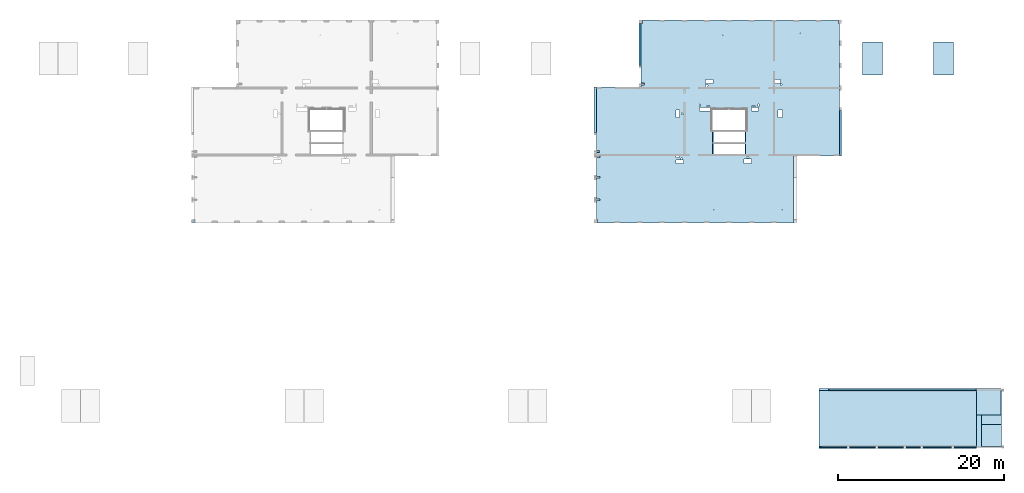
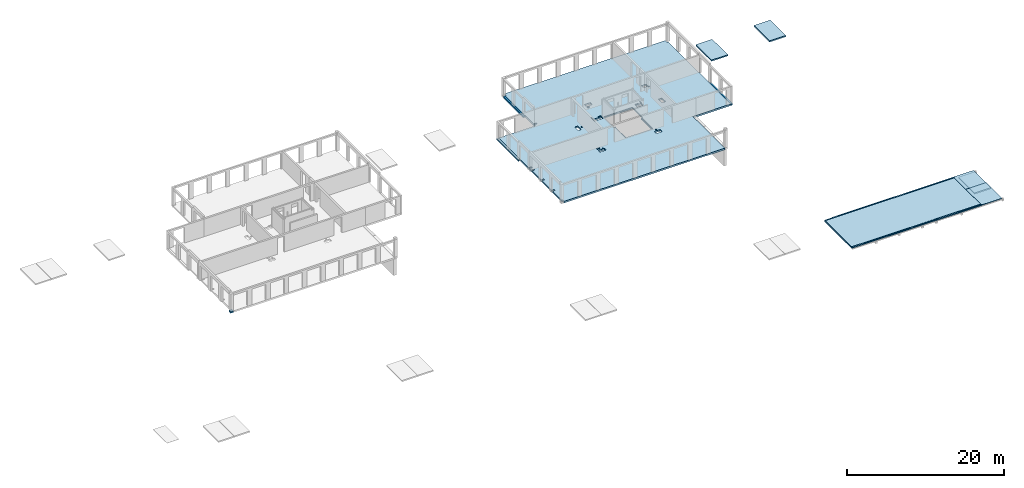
# One storey, part 5 of 14: 15 slabs, 34 openings.
"""IFC2X3 building model written with IfcOpenShell, lengths in millimetres."""

import ifcopenshell
import ifcopenshell.guid

model = None  # the IFC model being written
_history = None  # IfcOwnerHistory: only IFC2X3 demands one
_inside = {}  # id of a spatial element -> (the spatial element, [elements in it])
_under = {}  # id of a project, library or spatial element -> (it, [spatial elements below it])
_declared = {}  # id of a project -> (the project, [libraries it declares])
_typed = {}  # id of a type object -> (the type object, [elements of that type])
_made_of = {}  # id of a material, layer set ... -> (it, [elements and type objects made of it])


def new_model(schema):
    """Start an empty IFC model of exactly this schema.

    Asked for "IFC4X3", IfcOpenShell would pick the latest addendum, in which some entities
    have other attributes; the version numbers below select the first issue.
    IFC2X3 requires an IfcOwnerHistory on every rooted entity: one is made here for all.
    """
    global model, _history
    if schema == "IFC4X3":
        model = ifcopenshell.file(schema_version=(4, 3, 0, 0))
    else:
        model = ifcopenshell.file(schema=schema)
    _inside.clear()
    _under.clear()
    _declared.clear()
    _typed.clear()
    _made_of.clear()
    _history = None
    if model.schema == "IFC2X3":
        org = make("IfcOrganization", Name="unknown")
        user = make(
            "IfcPersonAndOrganization",
            ThePerson=make("IfcPerson", FamilyName="unknown"),
            TheOrganization=org,
        )
        app = make(
            "IfcApplication",
            ApplicationDeveloper=org,
            Version="unknown",
            ApplicationFullName="unknown",
            ApplicationIdentifier="unknown",
        )
        _history = make(
            "IfcOwnerHistory",
            OwningUser=user,
            OwningApplication=app,
            ChangeAction="ADDED",
            CreationDate=0,
        )
    return model


def make(cls, **values):
    """One entity of the class cls with the attributes given. An attribute that is None is left unset."""
    return model.create_entity(
        cls, **{name: value for name, value in values.items() if value is not None}
    )


def entity(cls, *values):
    """Any entity or typed value of the class cls, its attributes in the order of the schema. None: left unset."""
    e = model.create_entity(cls)
    for i, value in enumerate(values):
        if value is not None:
            e[i] = value
    return e


def rooted(cls, **values):
    """An entity with a GlobalId (a new one), such as an element, a storey or a relation."""
    return make(cls, GlobalId=ifcopenshell.guid.new(), OwnerHistory=_history, **values)


def si_unit(unit_type, name, prefix=None):
    """IfcSIUnit, for example si_unit("LENGTHUNIT", "METRE", prefix="MILLI")."""
    return make("IfcSIUnit", UnitType=unit_type, Prefix=prefix, Name=name)


def converted_unit(unit_type, name, factor, base, dimensions=None, offset=None):
    """IfcConversionBasedUnit, such as the inch: factor (a typed value) times the base unit."""
    return make(
        "IfcConversionBasedUnit"
        if offset is None
        else "IfcConversionBasedUnitWithOffset",
        ConversionOffset=offset,
        Dimensions=None
        if dimensions is None
        else entity("IfcDimensionalExponents", *dimensions),
        UnitType=unit_type,
        Name=name,
        ConversionFactor=make(
            "IfcMeasureWithUnit", ValueComponent=factor, UnitComponent=base
        ),
    )


def derived_unit(unit_type, elements):
    """IfcDerivedUnit: a product of units, each with its exponent."""
    return make(
        "IfcDerivedUnit",
        Elements=[
            make("IfcDerivedUnitElement", Unit=unit, Exponent=power)
            for unit, power in elements
        ],
        UnitType=unit_type,
    )


def assignment(units):
    """IfcUnitAssignment: the units of a project."""
    return None if units is None else make("IfcUnitAssignment", Units=units)


def point(xyz):
    """IfcCartesianPoint."""
    return None if xyz is None else make("IfcCartesianPoint", Coordinates=xyz)


def direction(xyz):
    """IfcDirection."""
    return None if xyz is None else make("IfcDirection", DirectionRatios=xyz)


def frame(location, z_axis=None, x_axis=None):
    """IfcAxis2Placement3D, a coordinate frame: its origin and axes. An axis left out is left unset."""
    return make(
        "IfcAxis2Placement3D",
        Location=point(location),
        Axis=direction(z_axis),
        RefDirection=direction(x_axis),
    )


def frame_2d(location, x_axis=None):
    """IfcAxis2Placement2D, a coordinate frame in the plane: its origin and x axis."""
    return make(
        "IfcAxis2Placement2D", Location=point(location), RefDirection=direction(x_axis)
    )


def origin():
    """The frame at (0, 0, 0) with its axes left unset."""
    return frame((0.0, 0.0, 0.0))


def origin_2d_with_axis():
    """The frame at (0, 0) in the plane with the x axis (1, 0) written out."""
    return frame_2d((0.0, 0.0), x_axis=(1.0, 0.0))


def place(relative_to, where):
    """IfcLocalPlacement: puts the frame where relative to a parent placement (None: the world)."""
    return make(
        "IfcLocalPlacement", PlacementRelTo=relative_to, RelativePlacement=where
    )


def context(
    kind, dimensions, precision=None, world=None, true_north=None, identifier=None
):
    """IfcGeometricRepresentationContext, for example the 3D "Model" context."""
    return make(
        "IfcGeometricRepresentationContext",
        ContextIdentifier=identifier,
        ContextType=kind,
        CoordinateSpaceDimension=dimensions,
        Precision=precision,
        WorldCoordinateSystem=world,
        TrueNorth=true_north,
    )


def subcontext(parent, identifier, kind, view, scale=None):
    """IfcGeometricRepresentationSubContext, for example "Body" below "Model"."""
    return make(
        "IfcGeometricRepresentationSubContext",
        ContextIdentifier=identifier,
        ContextType=kind,
        ParentContext=parent,
        TargetScale=scale,
        TargetView=view,
    )


def project(units=None, contexts=None):
    """IfcProject with its units and contexts."""
    return rooted(
        "IfcProject",
        Name="project",
        RepresentationContexts=contexts,
        UnitsInContext=assignment(units),
    )


def spatial(cls, under=None, at=None, **own):
    """A site, building, storey or space (cls), placed at a placement, below another one or the project."""
    s = rooted(cls, ObjectPlacement=at, **own)
    if under is not None:
        _under.setdefault(under.id(), (under, []))[1].append(s)
    return s


def polyline(points):
    """IfcPolyline through the points."""
    return make("IfcPolyline", Points=[point(p) for p in points])


def profile(cls, at=None, kind="AREA", **sizes):
    """A parametric profile (cls). Its sizes go by their IFC names, for example OverallWidth=200.0."""
    return make(cls, ProfileType=kind, Position=at, **sizes)


def rectangle(**sizes):
    """IfcRectangleProfileDef."""
    return profile("IfcRectangleProfileDef", **sizes)


def circle(**sizes):
    """IfcCircleProfileDef."""
    return profile("IfcCircleProfileDef", **sizes)


def outline(outer, holes=None, kind="AREA"):
    """IfcArbitraryClosedProfileDef: a profile drawn as a closed curve; with holes, ...WithVoids."""
    if holes is None:
        return make("IfcArbitraryClosedProfileDef", ProfileType=kind, OuterCurve=outer)
    return make(
        "IfcArbitraryProfileDefWithVoids",
        ProfileType=kind,
        OuterCurve=outer,
        InnerCurves=holes,
    )


def extrude(swept, where, along, depth):
    """IfcExtrudedAreaSolid: the profile swept, set in the frame where, extruded along a direction by depth."""
    return make(
        "IfcExtrudedAreaSolid",
        SweptArea=swept,
        Position=where,
        ExtrudedDirection=direction(along),
        Depth=depth,
    )


def shape(context_of_items, identifier, shape_type, items):
    """IfcShapeRepresentation: the items that make up one representation, for example the "Body"."""
    return make(
        "IfcShapeRepresentation",
        ContextOfItems=context_of_items,
        RepresentationIdentifier=identifier,
        RepresentationType=shape_type,
        Items=items,
    )


def material(Name=None, Category=None):
    """IfcMaterial."""
    return make("IfcMaterial", Name=Name, Category=Category)


def layer(
    of_material, thickness, ventilated=None, Name=None, Category=None, Priority=None
):
    """IfcMaterialLayer: one layer of a wall or slab, of a material (None: an air gap)."""
    return make(
        "IfcMaterialLayer",
        Material=of_material,
        LayerThickness=thickness,
        IsVentilated=ventilated,
        Name=Name,
        Category=Category,
        Priority=Priority,
    )


def layer_set(layers, Name=None):
    """IfcMaterialLayerSet."""
    return make("IfcMaterialLayerSet", MaterialLayers=layers, LayerSetName=Name)


def layer_usage(for_layer_set, set_direction, sense, offset, extent=None):
    """IfcMaterialLayerSetUsage: how a layer set lies in its element."""
    return make(
        "IfcMaterialLayerSetUsage",
        ForLayerSet=for_layer_set,
        LayerSetDirection=set_direction,
        DirectionSense=sense,
        OffsetFromReferenceLine=offset,
        ReferenceExtent=extent,
    )


def made_of(thing, what):
    """Note that an element or type object is made of a material, layer set ...; save() writes the relation."""
    if what is not None:
        _made_of.setdefault(what.id(), (what, []))[1].append(thing)
    return thing


def element(
    cls,
    number,
    at=None,
    inside=None,
    cuts=None,
    type_object=None,
    material=None,
    context=None,
    identifier="Body",
    shape_type=None,
    held_by="IfcProductDefinitionShape",
    body=None,
    shapes=None,
    **own,
):
    """One element of the class cls, such as IfcWall. Its Tag is "e" and its number.

    at: its placement. inside: the storey or other place that contains it. cuts: it is an
    opening in that element (IfcRelVoidsElement). A single representation is given by context,
    identifier, shape_type and body (its items); several are given by shapes. held_by: the class
    of the entity that holds the representations. save() writes the other relations.
    """
    e = rooted(cls, Tag="e%d" % number, ObjectPlacement=at, **own)
    if body is not None:
        shapes = [shape(context, identifier, shape_type, body)]
    if shapes is not None:
        e.Representation = make(held_by, Representations=shapes)
    if inside is not None:
        _inside.setdefault(inside.id(), (inside, []))[1].append(e)
    if cuts is not None:
        rooted(
            "IfcRelVoidsElement", RelatingBuildingElement=cuts, RelatedOpeningElement=e
        )
    if type_object is not None:
        _typed.setdefault(type_object.id(), (type_object, []))[1].append(e)
    return made_of(e, material)


def aggregate(whole, parts):
    """IfcRelAggregates: a whole, such as a stair, and the parts it consists of."""
    return rooted("IfcRelAggregates", RelatingObject=whole, RelatedObjects=parts)


def save(model, path):
    """Write the relations noted so far, then the file.

    IfcRelAggregates (storeys below a building ...), IfcRelContainedInSpatialStructure (elements
    in a storey), IfcRelDefinesByType, IfcRelAssociatesMaterial and IfcRelDeclares: one each for
    every whole, place, type object, material and project.
    """
    for whole, parts in _under.values():
        aggregate(whole, parts)
    for where, things in _inside.values():
        rooted(
            "IfcRelContainedInSpatialStructure",
            RelatedElements=things,
            RelatingStructure=where,
        )
    for kind, things in _typed.values():
        rooted("IfcRelDefinesByType", RelatedObjects=things, RelatingType=kind)
    for what, things in _made_of.values():
        rooted("IfcRelAssociatesMaterial", RelatedObjects=things, RelatingMaterial=what)
    for by, libraries in _declared.values():
        rooted("IfcRelDeclares", RelatingContext=by, RelatedDefinitions=libraries)
    model.write(path)


model = new_model("IFC2X3")

# Units and contexts
model_context = context("Model", 3, precision=0.01, world=origin(), true_north=direction((6.12303176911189e-17, 1.0)))
body_context = subcontext(model_context, "Body", "Model", "MODEL_VIEW")
ifc_project = project(units=[si_unit("LENGTHUNIT", "METRE", prefix="MILLI"), si_unit("AREAUNIT", "SQUARE_METRE"), si_unit("VOLUMEUNIT", "CUBIC_METRE"), converted_unit("PLANEANGLEUNIT", "DEGREE", entity("IfcRatioMeasure", 0.0174532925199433), si_unit("PLANEANGLEUNIT", "RADIAN"), dimensions=[0, 0, 0, 0, 0, 0, 0]), si_unit("MASSUNIT", "GRAM", prefix="KILO"), derived_unit("MASSDENSITYUNIT", [(si_unit("MASSUNIT", "GRAM", prefix="KILO"), 1), (si_unit("LENGTHUNIT", "METRE"), -3)]), si_unit("TIMEUNIT", "SECOND"), si_unit("FREQUENCYUNIT", "HERTZ"), si_unit("THERMODYNAMICTEMPERATUREUNIT", "DEGREE_CELSIUS"), derived_unit("THERMALTRANSMITTANCEUNIT", [(si_unit("MASSUNIT", "GRAM", prefix="KILO"), 1), (si_unit("THERMODYNAMICTEMPERATUREUNIT", "KELVIN"), -1), (si_unit("TIMEUNIT", "SECOND"), -3)]), derived_unit("VOLUMETRICFLOWRATEUNIT", [(si_unit("LENGTHUNIT", "METRE"), 3), (si_unit("TIMEUNIT", "SECOND"), -1)]), si_unit("ELECTRICCURRENTUNIT", "AMPERE"), si_unit("ELECTRICVOLTAGEUNIT", "VOLT"), si_unit("POWERUNIT", "WATT"), si_unit("FORCEUNIT", "NEWTON", prefix="KILO"), si_unit("ILLUMINANCEUNIT", "LUX"), si_unit("LUMINOUSFLUXUNIT", "LUMEN"), si_unit("LUMINOUSINTENSITYUNIT", "CANDELA"), derived_unit("USERDEFINED", [(si_unit("MASSUNIT", "GRAM", prefix="KILO"), -1), (si_unit("LENGTHUNIT", "METRE"), -2), (si_unit("TIMEUNIT", "SECOND"), 3), (si_unit("LUMINOUSFLUXUNIT", "LUMEN"), 1)]), derived_unit("LINEARVELOCITYUNIT", [(si_unit("LENGTHUNIT", "METRE"), 1), (si_unit("TIMEUNIT", "SECOND"), -1)]), si_unit("PRESSUREUNIT", "PASCAL"), derived_unit("USERDEFINED", [(si_unit("LENGTHUNIT", "METRE"), -2), (si_unit("MASSUNIT", "GRAM", prefix="KILO"), 1), (si_unit("TIMEUNIT", "SECOND"), -2)])], contexts=[model_context])

# Site, building, storey
site_placement = place(None, origin())
site = spatial("IfcSite", under=ifc_project, at=site_placement, Name="Default", CompositionType="ELEMENT")
building_placement = place(site_placement, origin())
building = spatial("IfcBuilding", under=site, at=building_placement, Name="niet gebruiken", CompositionType="ELEMENT")
storey_placement = place(building_placement, frame((0.0, 0.0, 15570.0)))
storey = spatial("IfcBuildingStorey", under=building, at=storey_placement, Name="05 vijfde verdieping", CompositionType="ELEMENT", Elevation=15570.0)

# Slabs
ifc_material_1 = material(Name="NLRS_f2_beton prefab")
ifc_layer_1 = layer(ifc_material_1, 200.0)
ifc_layer_set_1 = layer_set([ifc_layer_1], Name="Floor:NLRS_27.21_FL_beton prefab d=200_gen")
ifc_layer_usage_1 = layer_usage(ifc_layer_set_1, "AXIS3", "POSITIVE", 0.0)
slab_1_placement = place(storey_placement, origin())
element("IfcSlab", 1, at=slab_1_placement, inside=storey, material=ifc_layer_usage_1, Name="Floor:NLRS_27.21_FL_beton prefab d=200_gen", ObjectType="Floor:NLRS_27.21_FL_beton prefab d=200_gen", PredefinedType="ROOF", context=body_context, shape_type="SweptSolid", body=[
    extrude(rectangle(XDim=3979.99999999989, YDim=2404.99999999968, at=origin_2d_with_axis()), frame((117672.499999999, 48586.0, -140.0), z_axis=(0.0, 0.0, -1.0), x_axis=(0.0, 1.0, 0.0)), (0.0, 0.0, 1.0), 200.0),
])
ifc_layer_usage_2 = layer_usage(ifc_layer_set_1, "AXIS3", "POSITIVE", 0.0)
slab_2_placement = place(storey_placement, origin())
element("IfcSlab", 2, at=slab_2_placement, inside=storey, material=ifc_layer_usage_2, Name="Floor:NLRS_27.21_FL_beton prefab d=200_gen", ObjectType="Floor:NLRS_27.21_FL_beton prefab d=200_gen", PredefinedType="ROOF", context=body_context, shape_type="SweptSolid", body=[
    extrude(rectangle(XDim=3979.99999999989, YDim=2404.99999999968, at=origin_2d_with_axis()), frame((109127.499999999, 48586.0, -140.0), z_axis=(0.0, 0.0, -1.0), x_axis=(0.0, 1.0, 0.0)), (0.0, 0.0, 1.0), 200.0),
])
ifc_layer_2 = layer(ifc_material_1, 200.0)
ifc_layer_set_2 = layer_set([ifc_layer_2], Name="Floor:NLRS_27.21_FL_kanaalplaat d=200_gen")
ifc_layer_usage_3 = layer_usage(ifc_layer_set_2, "AXIS3", "POSITIVE", 0.0)
slab_3_placement = place(storey_placement, origin())
element("IfcSlab", 3, at=slab_3_placement, inside=storey, material=ifc_layer_usage_3, Name="Floor:NLRS_27.21_FL_kanaalplaat d=200_gen", ObjectType="Floor:NLRS_27.21_FL_kanaalplaat d=200_gen", PredefinedType="ROOF", context=body_context, shape_type="SweptSolid", body=[
    extrude(outline(polyline([(-4569.0, -6904.99996933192), (2407.0, -6904.99996933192), (2407.0, -5775.00006133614), (2162.0, -5775.00006133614), (2162.0, 12680.000030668), (-4569.0, 12680.0000306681), (-4569.0, -6904.99996933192)])), frame((109580.0, 6339.0, -240.0), z_axis=(0.0, 0.0, -1.0), x_axis=(0.0, 1.0, 0.0)), (0.0, 0.0, 1.0), 200.0),
])
ifc_material_2 = material(Name="NLRS_f2_beton ihwg")
ifc_layer_3 = layer(ifc_material_2, 70.0)
ifc_layer_set_3 = layer_set([ifc_layer_3], Name="Floor:NLRS_23.21_FL_druklaag d=70_gen")
ifc_layer_usage_4 = layer_usage(ifc_layer_set_3, "AXIS3", "POSITIVE", 0.0)
slab_4_placement = place(storey_placement, origin())
element("IfcSlab", 4, at=slab_4_placement, inside=storey, material=ifc_layer_usage_4, Name="Floor:NLRS_23.21_FL_druklaag d=70_gen", ObjectType="Floor:NLRS_23.21_FL_druklaag d=70_gen", PredefinedType="FLOOR", context=body_context, shape_type="SweptSolid", body=[
    extrude(rectangle(XDim=6760.99999999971, YDim=18984.9999999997, at=frame_2d((-1.45519152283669e-11, -8.18545231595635e-12), x_axis=(1.0, 0.0))), frame((112167.5, 5140.49999999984, -170.0), z_axis=(0.0, 0.0, -1.0), x_axis=(0.0, 1.0, 0.0)), (0.0, 0.0, 1.0), 69.9999999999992),
])

# Slab, openings
ifc_layer_4 = layer(ifc_material_2, 250.0)
ifc_layer_set_4 = layer_set([ifc_layer_4], Name="Floor:NLRS_23.21_FL_beton ihwg d=250_gen")
ifc_layer_usage_5 = layer_usage(ifc_layer_set_4, "AXIS3", "POSITIVE", 0.0)
slab_5_placement = place(storey_placement, frame((75770.0, 28756.0, -340.0)))
slab_5 = element("IfcSlab", 5, at=slab_5_placement, inside=storey, material=ifc_layer_usage_5, Name="Floor:NLRS_23.21_FL_beton ihwg d=250_gen", ObjectType="Floor:NLRS_23.21_FL_beton ihwg d=250_gen", PredefinedType="FLOOR", context=body_context, shape_type="SweptSolid", body=[
    extrude(outline(polyline([(9129.99996701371, 12250.0), (-14530.0, 12250.0), (-14530.0, 11840.0), (-14670.0, 11840.0), (-14670.0, 4060.0), (-14690.0, 4060.0), (-14690.0, -4150.0), (-9130.0, -4150.0), (-9130.0, -12250.0), (14530.0, -12250.0), (14530.0, -11820.0), (14670.0, -11820.0), (14670.0, -4040.0), (14690.0, -4040.0), (14690.0, 4150.0), (9290.0, 4150.0), (9290.0, 6750.0), (9560.0, 6750.0), (9560.0, 11820.0), (9129.99996701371, 11820.0), (9129.99996701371, 12250.0)])), frame((14690.0, 12250.0, 250.0), z_axis=(0.0, 0.0, -1.0), x_axis=(-1.0, 0.0, 0.0)), (0.0, 0.0, 1.0), 249.999999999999),
])
opening_1_placement = place(storey_placement, frame((75770.0, 28756.0, -340.0)))
element("IfcOpeningElement", 6, at=opening_1_placement, cuts=slab_5, ObjectType="Opening", context=body_context, shape_type="SweptSolid", body=[
    extrude(circle(Radius=37.5, at=frame_2d((-7740.0, -10650.0), x_axis=(1.0, 0.0))), frame((14690.0, 12250.0, 250.0), z_axis=(0.0, 0.0, -1.0), x_axis=(-1.0, 0.0, 0.0)), (0.0, 0.0, 1.0), 249.999999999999),
])
opening_2_placement = place(storey_placement, frame((75770.0, 28756.0, -340.0)))
element("IfcOpeningElement", 7, at=opening_2_placement, cuts=slab_5, ObjectType="Opening", context=body_context, shape_type="SweptSolid", body=[
    extrude(circle(Radius=37.5, at=frame_2d((-9940.0, 10650.0), x_axis=(1.0, 0.0))), frame((14690.0, 12250.0, 250.0), z_axis=(0.0, 0.0, -1.0), x_axis=(-1.0, 0.0, 0.0)), (0.0, 0.0, 1.0), 249.999999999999),
])
opening_3_placement = place(storey_placement, frame((75770.0, 28756.0, -340.0)))
element("IfcOpeningElement", 8, at=opening_3_placement, cuts=slab_5, ObjectType="Opening", context=body_context, shape_type="SweptSolid", body=[
    extrude(circle(Radius=37.5, at=frame_2d((-590.0, 10400.0), x_axis=(1.0, 0.0))), frame((14690.0, 12250.0, 250.0), z_axis=(0.0, 0.0, -1.0), x_axis=(-1.0, 0.0, 0.0)), (0.0, 0.0, 1.0), 249.999999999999),
])
opening_4_placement = place(storey_placement, frame((75770.0, 28756.0, -340.0)))
element("IfcOpeningElement", 9, at=opening_4_placement, cuts=slab_5, ObjectType="Opening", context=body_context, shape_type="SweptSolid", body=[
    extrude(circle(Radius=37.5, at=frame_2d((510.0, -10650.0), x_axis=(1.0, 0.0))), frame((14690.0, 12250.0, 250.0), z_axis=(0.0, 0.0, -1.0), x_axis=(-1.0, 0.0, 0.0)), (0.0, 0.0, 1.0), 249.999999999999),
])
opening_5_placement = place(slab_5_placement, origin())
element("IfcOpeningElement", 10, at=opening_5_placement, cuts=slab_5, ObjectType="Opening", context=body_context, shape_type="SweptSolid", body=[
    extrude(rectangle(XDim=109.999999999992, YDim=1220.0, at=origin_2d_with_axis()), frame((17985.0, 8960.0, 210.0)), (0.0, 0.0, 1.0), 39.9999999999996),
])
opening_6_placement = place(slab_5_placement, origin())
element("IfcOpeningElement", 11, at=opening_6_placement, cuts=slab_5, ObjectType="Opening", context=body_context, shape_type="SweptSolid", body=[
    extrude(rectangle(XDim=109.999999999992, YDim=1220.0, at=origin_2d_with_axis()), frame((14074.9995993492, 8960.0, 210.0)), (0.0, 0.0, 1.0), 39.9999999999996),
])
opening_7_placement = place(slab_5_placement, origin())
element("IfcOpeningElement", 12, at=opening_7_placement, cuts=slab_5, ObjectType="Opening", context=body_context, shape_type="SweptSolid", body=[
    extrude(rectangle(XDim=200.000000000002, YDim=400.000000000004, at=origin_2d_with_axis()), frame((220.0, 5500.0, 220.0), z_axis=(0.0, 0.0, 1.0), x_axis=(0.0, -1.0, 0.0)), (0.0, 0.0, 1.0), 29.9999999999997),
])
opening_8_placement = place(slab_5_placement, origin())
element("IfcOpeningElement", 13, at=opening_8_placement, cuts=slab_5, ObjectType="Opening", context=body_context, shape_type="SweptSolid", body=[
    extrude(rectangle(XDim=200.000000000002, YDim=400.000000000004, at=origin_2d_with_axis()), frame((220.0, 8000.0, 220.0), z_axis=(0.0, 0.0, 1.0), x_axis=(0.0, -1.0, 0.0)), (0.0, 0.0, 1.0), 29.9999999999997),
])
opening_9_placement = place(slab_5_placement, origin())
element("IfcOpeningElement", 14, at=opening_9_placement, cuts=slab_5, ObjectType="Opening", context=body_context, shape_type="SweptSolid", body=[
    extrude(rectangle(XDim=200.000000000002, YDim=400.000000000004, at=origin_2d_with_axis()), frame((220.0, 2800.0, 220.0), z_axis=(0.0, 0.0, 1.0), x_axis=(0.0, -1.0, 0.0)), (0.0, 0.0, 1.0), 29.9999999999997),
])
opening_10_placement = place(slab_5_placement, origin())
element("IfcOpeningElement", 15, at=opening_10_placement, cuts=slab_5, ObjectType="Opening", context=body_context, shape_type="SweptSolid", body=[
    extrude(rectangle(XDim=400.000000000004, YDim=200.000000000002, at=origin_2d_with_axis()), frame((200.0, 8630.0, 220.0)), (0.0, 0.0, 1.0), 29.9999999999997),
])
opening_11_placement = place(slab_5_placement, origin())
element("IfcOpeningElement", 16, at=opening_11_placement, cuts=slab_5, ObjectType="Opening", context=body_context, shape_type="SweptSolid", body=[
    extrude(rectangle(XDim=399.999999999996, YDim=199.999999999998, at=origin_2d_with_axis()), frame((5600.0, 16765.0, 220.0)), (0.0, 0.0, 1.0), 29.9999999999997),
])
opening_12_placement = place(slab_5_placement, origin())
element("IfcOpeningElement", 17, at=opening_12_placement, cuts=slab_5, ObjectType="Opening", context=body_context, shape_type="SweptSolid", body=[
    extrude(rectangle(XDim=109.999999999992, YDim=1220.0, at=origin_2d_with_axis()), frame((14074.999967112, 10380.0, 210.0)), (0.0, 0.0, 1.0), 39.9999999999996),
])
opening_13_placement = place(slab_5_placement, origin())
element("IfcOpeningElement", 18, at=opening_13_placement, cuts=slab_5, ObjectType="Opening", context=body_context, shape_type="SweptSolid", body=[
    extrude(rectangle(XDim=109.999999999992, YDim=1220.0, at=origin_2d_with_axis()), frame((17985.0, 10380.0, 210.0)), (0.0, 0.0, 1.0), 39.9999999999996),
])
opening_14_placement = place(slab_5_placement, origin())
element("IfcOpeningElement", 19, at=opening_14_placement, cuts=slab_5, ObjectType="Opening", context=body_context, shape_type="SweptSolid", body=[
    extrude(rectangle(XDim=450.000000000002, YDim=900.000000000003, at=origin_2d_with_axis()), frame((19160.0, 13720.0, 0.0), z_axis=(0.0, 0.0, 1.0), x_axis=(0.0, -1.0, 0.0)), (0.0, 0.0, 1.0), 249.999999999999),
])
opening_15_placement = place(slab_5_placement, origin())
element("IfcOpeningElement", 20, at=opening_15_placement, cuts=slab_5, ObjectType="Opening", context=body_context, shape_type="SweptSolid", body=[
    extrude(circle(Radius=157.5, at=origin_2d_with_axis()), frame((13310.0, 16570.0, 0.0)), (0.0, 0.0, 1.0), 249.999999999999),
])
opening_16_placement = place(slab_5_placement, origin())
element("IfcOpeningElement", 21, at=opening_16_placement, cuts=slab_5, ObjectType="Opening", context=body_context, shape_type="SweptSolid", body=[
    extrude(rectangle(XDim=475.000000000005, YDim=910.000000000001, at=origin_2d_with_axis()), frame((13610.0, 17072.5000000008, 0.0), z_axis=(0.0, 0.0, 1.0), x_axis=(0.0, 1.0, 0.0)), (0.0, 0.0, 1.0), 249.999999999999),
])
opening_17_placement = place(slab_5_placement, origin())
element("IfcOpeningElement", 22, at=opening_17_placement, cuts=slab_5, ObjectType="Opening", context=body_context, shape_type="SweptSolid", body=[
    extrude(rectangle(XDim=499.999999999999, YDim=675.000000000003, at=origin_2d_with_axis()), frame((21892.5, 17075.0, 0.0), z_axis=(0.0, 0.0, 1.0), x_axis=(0.0, -1.0, 0.0)), (0.0, 0.0, 1.0), 249.999999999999),
])
opening_18_placement = place(slab_5_placement, origin())
element("IfcOpeningElement", 23, at=opening_18_placement, cuts=slab_5, ObjectType="Opening", context=body_context, shape_type="SweptSolid", body=[
    extrude(rectangle(XDim=500.000000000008, YDim=900.000000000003, at=origin_2d_with_axis()), frame((22205.0, 13180.0, 0.0), z_axis=(0.0, 0.0, 1.0), x_axis=(-1.0, 0.0, 0.0)), (0.0, 0.0, 1.0), 249.999999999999),
])
opening_19_placement = place(slab_5_placement, origin())
element("IfcOpeningElement", 24, at=opening_19_placement, cuts=slab_5, ObjectType="Opening", context=body_context, shape_type="SweptSolid", body=[
    extrude(rectangle(XDim=500.000000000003, YDim=900.000000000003, at=origin_2d_with_axis()), frame((18310.0, 7450.0, 0.0), z_axis=(0.0, 0.0, 1.0), x_axis=(0.0, 1.0, 0.0)), (0.0, 0.0, 1.0), 249.999999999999),
])
opening_20_placement = place(slab_5_placement, origin())
element("IfcOpeningElement", 25, at=opening_20_placement, cuts=slab_5, ObjectType="Opening", context=body_context, shape_type="SweptSolid", body=[
    extrude(rectangle(XDim=220.000000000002, YDim=450.000000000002, at=origin_2d_with_axis()), frame((9830.0, 7990.0, 0.0), z_axis=(0.0, 0.0, 1.0), x_axis=(0.0, 1.0, 0.0)), (0.0, 0.0, 1.0), 249.999999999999),
])
opening_21_placement = place(slab_5_placement, origin())
element("IfcOpeningElement", 26, at=opening_21_placement, cuts=slab_5, ObjectType="Opening", context=body_context, shape_type="SweptSolid", body=[
    extrude(rectangle(XDim=400.0, YDim=900.000000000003, at=origin_2d_with_axis()), frame((10055.0, 7400.0, 0.0), z_axis=(0.0, 0.0, 1.0), x_axis=(0.0, 1.0, 0.0)), (0.0, 0.0, 1.0), 249.999999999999),
])
opening_22_placement = place(slab_5_placement, origin())
element("IfcOpeningElement", 27, at=opening_22_placement, cuts=slab_5, ObjectType="Opening", context=body_context, shape_type="SweptSolid", body=[
    extrude(rectangle(XDim=340.000000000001, YDim=100.000000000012, at=origin_2d_with_axis()), frame((12485.0, 14210.0, 0.0), z_axis=(0.0, 0.0, 1.0), x_axis=(0.0, -1.0, 0.0)), (0.0, 0.0, 1.0), 249.999999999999),
])
opening_23_placement = place(slab_5_placement, origin())
element("IfcOpeningElement", 28, at=opening_23_placement, cuts=slab_5, ObjectType="Opening", context=body_context, shape_type="SweptSolid", body=[
    extrude(rectangle(XDim=1760.00000000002, YDim=23.0000000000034, at=origin_2d_with_axis()), frame((14974.9998491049, 13751.5, 180.0)), (0.0, 0.0, 1.0), 39.9999999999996),
])
opening_24_placement = place(slab_5_placement, origin())
element("IfcOpeningElement", 29, at=opening_24_placement, cuts=slab_5, ObjectType="Opening", context=body_context, shape_type="SweptSolid", body=[
    extrude(rectangle(XDim=1760.0, YDim=23.0000000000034, at=origin_2d_with_axis()), frame((17084.999849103, 13751.5, 180.0)), (0.0, 0.0, 1.0), 39.9999999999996),
])
opening_25_placement = place(slab_5_placement, origin())
element("IfcOpeningElement", 30, at=opening_25_placement, cuts=slab_5, ObjectType="Opening", context=body_context, shape_type="SweptSolid", body=[
    extrude(rectangle(XDim=340.000000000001, YDim=100.000000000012, at=origin_2d_with_axis()), frame((19595.0, 14210.0, 0.0), z_axis=(0.0, 0.0, 1.0), x_axis=(0.0, -1.0, 0.0)), (0.0, 0.0, 1.0), 249.999999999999),
])
opening_26_placement = place(slab_5_placement, origin())
element("IfcOpeningElement", 31, at=opening_26_placement, cuts=slab_5, ObjectType="Opening", context=body_context, shape_type="SweptSolid", body=[
    extrude(rectangle(XDim=490.00000000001, YDim=100.000000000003, at=origin_2d_with_axis()), frame((18955.0, 14090.0, 0.0), z_axis=(0.0, 0.0, 1.0), x_axis=(-1.0, 0.0, 0.0)), (0.0, 0.0, 1.0), 249.999999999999),
])
opening_27_placement = place(slab_5_placement, origin())
element("IfcOpeningElement", 32, at=opening_27_placement, cuts=slab_5, ObjectType="Opening", context=body_context, shape_type="SweptSolid", body=[
    extrude(rectangle(XDim=440.000000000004, YDim=100.000000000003, at=origin_2d_with_axis()), frame((13535.0, 14090.0, 0.0), z_axis=(0.0, 0.0, 1.0), x_axis=(-1.0, 0.0, 0.0)), (0.0, 0.0, 1.0), 249.999999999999),
])
opening_28_placement = place(slab_5_placement, origin())
element("IfcOpeningElement", 33, at=opening_28_placement, cuts=slab_5, ObjectType="Opening", context=body_context, shape_type="SweptSolid", body=[
    extrude(circle(Radius=100.0, at=origin_2d_with_axis()), frame((10305.0, 7760.0, 0.0)), (0.0, 0.0, 1.0), 249.999999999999),
])
opening_29_placement = place(slab_5_placement, origin())
element("IfcOpeningElement", 34, at=opening_29_placement, cuts=slab_5, ObjectType="Opening", context=body_context, shape_type="SweptSolid", body=[
    extrude(circle(Radius=100.0, at=origin_2d_with_axis()), frame((18310.0, 7950.0, 0.0)), (0.0, 0.0, 1.0), 249.999999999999),
])
opening_30_placement = place(slab_5_placement, origin())
element("IfcOpeningElement", 35, at=opening_30_placement, cuts=slab_5, ObjectType="Opening", context=body_context, shape_type="SweptSolid", body=[
    extrude(circle(Radius=100.0, at=origin_2d_with_axis()), frame((22305.0, 16700.0, 0.0)), (0.0, 0.0, 1.0), 249.999999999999),
])
opening_31_placement = place(slab_5_placement, origin())
element("IfcOpeningElement", 36, at=opening_31_placement, cuts=slab_5, ObjectType="Opening", context=body_context, shape_type="SweptSolid", body=[
    extrude(circle(Radius=100.0, at=origin_2d_with_axis()), frame((10355.0, 13180.0, 0.0)), (0.0, 0.0, 1.0), 249.999999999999),
])
opening_32_placement = place(slab_5_placement, origin())
element("IfcOpeningElement", 37, at=opening_32_placement, cuts=slab_5, ObjectType="Opening", context=body_context, shape_type="SweptSolid", body=[
    extrude(rectangle(XDim=450.000000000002, YDim=900.000000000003, at=origin_2d_with_axis()), frame((9829.99998015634, 13180.0, 0.0), z_axis=(0.0, 0.0, 1.0), x_axis=(-1.0, 0.0, 0.0)), (0.0, 0.0, 1.0), 249.999999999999),
])
opening_33_placement = place(slab_5_placement, origin())
element("IfcOpeningElement", 38, at=opening_33_placement, cuts=slab_5, ObjectType="Opening", context=body_context, shape_type="SweptSolid", body=[
    extrude(rectangle(XDim=440.000000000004, YDim=1320.00000000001, at=origin_2d_with_axis()), frame((13095.0, 13720.0, 0.0), z_axis=(0.0, 0.0, 1.0), x_axis=(0.0, -1.0, 0.0)), (0.0, 0.0, 1.0), 249.999999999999),
])
opening_34_placement = place(slab_5_placement, frame((16030.0028664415, 10378.75, 250.0)))
element("IfcOpeningElement", 39, at=opening_34_placement, cuts=slab_5, Name="Floor:NLRS_23.21_FL_beton ihwg d=250_gen:2", ObjectType="Opening", context=body_context, shape_type="SweptSolid", body=[
    extrude(outline(polyline([(-3361.25000000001, -2134.99713355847), (-751.250000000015, -2134.99713355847), (-751.250000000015, -1899.9971006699), (608.750000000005, -1899.9971006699), (608.750000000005, -1999.99713355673), (808.750000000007, -1999.99713355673), (808.750000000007, -1899.9971006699), (2028.75, -1899.9971006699), (2028.75, 1900.00289933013), (808.749999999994, 1900.00289933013), (808.749999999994, 2000.00286644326), (608.749999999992, 2000.00286644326), (608.749999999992, 1900.00289933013), (-751.250000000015, 1900.00289933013), (-751.250000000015, 2134.97980335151), (-3361.25000000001, 2134.97980335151), (-3361.25000000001, -2134.99713355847)])), frame((0.0, 0.0, 0.0), z_axis=(0.0, 0.0, -1.0), x_axis=(0.0, -1.0, 0.0)), (0.0, 0.0, 1.0), 249.999999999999),
])

# Slabs
ifc_layer_usage_6 = layer_usage(ifc_layer_set_4, "AXIS3", "POSITIVE", 0.0)
slab_6_placement = place(storey_placement, origin())
element("IfcSlab", 40, at=slab_6_placement, inside=storey, material=ifc_layer_usage_6, Name="Floor:NLRS_23.21_FL_beton ihwg d=250_gen", ObjectType="Floor:NLRS_23.21_FL_beton ihwg d=250_gen", PredefinedType="FLOOR", context=body_context, shape_type="SweptSolid", body=[
    extrude(rectangle(XDim=5500.00000000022, YDim=249.999999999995, at=frame_2d((0.0, -8.66151594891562e-12), x_axis=(1.0, 0.0))), frame((105275.0, 39606.0, -90.0), z_axis=(0.0, 0.0, -1.0), x_axis=(0.0, 1.0, 0.0)), (0.0, 0.0, 1.0), 249.999999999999),
])
ifc_layer_usage_7 = layer_usage(ifc_layer_set_4, "AXIS3", "POSITIVE", 0.0)
slab_7_placement = place(storey_placement, origin())
element("IfcSlab", 41, at=slab_7_placement, inside=storey, material=ifc_layer_usage_7, Name="Floor:NLRS_23.21_FL_beton ihwg d=250_gen", ObjectType="Floor:NLRS_23.21_FL_beton ihwg d=250_gen", PredefinedType="FLOOR", context=body_context, shape_type="SweptSolid", body=[
    extrude(rectangle(XDim=5089.99999999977, YDim=249.999999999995, at=frame_2d((4.32009983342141e-12, -8.66151594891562e-12), x_axis=(1.0, 0.0))), frame((81025.0, 50301.0, -90.0), z_axis=(0.0, 0.0, -1.0), x_axis=(0.0, 1.0, 0.0)), (0.0, 0.0, 1.0), 249.999999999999),
])
ifc_layer_usage_8 = layer_usage(ifc_layer_set_4, "AXIS3", "POSITIVE", 0.0)
slab_8_placement = place(storey_placement, origin())
element("IfcSlab", 42, at=slab_8_placement, inside=storey, material=ifc_layer_usage_8, Name="Floor:NLRS_23.21_FL_beton ihwg d=250_gen", ObjectType="Floor:NLRS_23.21_FL_beton ihwg d=250_gen", PredefinedType="FLOOR", context=body_context, shape_type="SweptSolid", body=[
    extrude(rectangle(XDim=5499.99999999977, YDim=270.000000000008, at=origin_2d_with_axis()), frame((75635.0, 42406.0, -90.0), z_axis=(0.0, 0.0, -1.0), x_axis=(0.0, 1.0, 0.0)), (0.0, 0.0, 1.0), 249.999999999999),
])
ifc_layer_usage_9 = layer_usage(ifc_layer_set_4, "AXIS3", "POSITIVE", 0.0)
slab_9_placement = place(storey_placement, origin())
element("IfcSlab", 43, at=slab_9_placement, inside=storey, material=ifc_layer_usage_9, Name="Floor:NLRS_23.21_FL_beton ihwg d=250_gen", ObjectType="Floor:NLRS_23.21_FL_beton ihwg d=250_gen", PredefinedType="FLOOR", context=body_context, shape_type="SweptSolid", body=[
    extrude(outline(polyline([(-280.0, -240.0), (130.0, -240.0), (130.0, 50.0), (150.0, 50.0), (150.0, 190.0), (-280.0, 190.0), (-280.0, -240.0)])), frame((27140.0, 29036.0, -90.0), z_axis=(0.0, 0.0, -1.0), x_axis=(0.0, 1.0, 0.0)), (0.0, 0.0, 1.0), 249.999999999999),
])
ifc_layer_usage_10 = layer_usage(ifc_layer_set_3, "AXIS3", "POSITIVE", 0.0)
slab_10_placement = place(storey_placement, origin())
element("IfcSlab", 44, at=slab_10_placement, inside=storey, material=ifc_layer_usage_10, Name="Floor:NLRS_23.21_FL_druklaag d=70_gen", ObjectType="Floor:NLRS_23.21_FL_druklaag d=70_gen", PredefinedType="FLOOR", context=body_context, shape_type="SweptSolid", body=[
    extrude(rectangle(XDim=3149.9999999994, YDim=2990.00000000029, at=frame_2d((-1.70530256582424e-12, 0.0), x_axis=(1.0, 0.0))), frame((123155.0, 7171.0, -170.0), z_axis=(0.0, 0.0, -1.0), x_axis=(0.0, 1.0, 0.0)), (0.0, 0.0, 1.0), 69.9999999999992),
])
ifc_layer_usage_11 = layer_usage(ifc_layer_set_2, "AXIS3", "POSITIVE", 0.0)
slab_11_placement = place(storey_placement, origin())
element("IfcSlab", 45, at=slab_11_placement, inside=storey, material=ifc_layer_usage_11, Name="Floor:NLRS_27.21_FL_kanaalplaat d=200_gen", ObjectType="Floor:NLRS_27.21_FL_kanaalplaat d=200_gen", PredefinedType="ROOF", context=body_context, shape_type="SweptSolid", body=[
    extrude(rectangle(XDim=2626.00000000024, YDim=2399.99999999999, at=frame_2d((-1.59161572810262e-12, -8.64019966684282e-12), x_axis=(1.0, 0.0))), frame((123460.0, 3083.0, -240.0), z_axis=(0.0, 0.0, -1.0), x_axis=(0.0, 1.0, 0.0)), (0.0, 0.0, 1.0), 200.0),
])
ifc_layer_5 = layer(ifc_material_2, 80.0)
ifc_layer_set_5 = layer_set([ifc_layer_5], Name="Floor:NLRS_23.21_FL_druklaag d=80_gen")
ifc_layer_usage_12 = layer_usage(ifc_layer_set_5, "AXIS3", "POSITIVE", 0.0)
slab_12_placement = place(storey_placement, frame((102675.0, 1570.0, -250.0)))
element("IfcSlab", 46, at=slab_12_placement, inside=storey, material=ifc_layer_usage_12, Name="Floor:NLRS_23.21_FL_druklaag d=80_gen", ObjectType="Floor:NLRS_23.21_FL_druklaag d=80_gen", PredefinedType="FLOOR", context=body_context, shape_type="SweptSolid", body=[
    extrude(rectangle(XDim=18984.9999999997, YDim=190.000000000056, at=frame_2d((0.0, -3493.0), x_axis=(1.0, 0.0))), frame((9492.49999999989, 3588.0, 80.0), z_axis=(0.0, 0.0, -1.0), x_axis=(-1.0, 0.0, 0.0)), (0.0, 0.0, 1.0), 79.9999999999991),
])
slab_13_placement = place(storey_placement, frame((102675.0, 1570.0, -250.0)))
element("IfcSlab", 47, at=slab_13_placement, inside=storey, material=ifc_layer_usage_12, Name="Floor:NLRS_23.21_FL_druklaag d=80_gen:2", ObjectType="Floor:NLRS_23.21_FL_druklaag d=80_gen", PredefinedType="FLOOR", context=body_context, shape_type="SweptSolid", body=[
    extrude(rectangle(XDim=225.0, YDim=17855.000092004, at=frame_2d((-564.9999539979, 3475.49999999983), x_axis=(0.0, 1.0))), frame((9492.49999999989, 3588.0, 80.0), z_axis=(0.0, 0.0, -1.0), x_axis=(-1.0, 0.0, 0.0)), (0.0, 0.0, 1.0), 79.9999999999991),
])
ifc_layer_usage_13 = layer_usage(ifc_layer_set_2, "AXIS3", "POSITIVE", 0.0)
slab_14_placement = place(storey_placement, origin())
element("IfcSlab", 48, at=slab_14_placement, inside=storey, material=ifc_layer_usage_13, Name="Floor:NLRS_27.21_FL_kanaalplaat d=200_gen", ObjectType="Floor:NLRS_27.21_FL_kanaalplaat d=200_gen", PredefinedType="ROOF", context=body_context, shape_type="SweptSolid", body=[
    extrude(rectangle(XDim=4104.9999999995, YDim=2399.99999999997, at=frame_2d((-1.36424205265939e-12, -1.72803993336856e-11), x_axis=(1.0, 0.0))), frame((123460.0, 6448.5, -240.0), z_axis=(0.0, 0.0, -1.0), x_axis=(0.0, 1.0, 0.0)), (0.0, 0.0, 1.0), 200.0),
])
ifc_layer_usage_14 = layer_usage(ifc_layer_set_3, "AXIS3", "POSITIVE", 0.0)
slab_15_placement = place(storey_placement, origin())
element("IfcSlab", 49, at=slab_15_placement, inside=storey, material=ifc_layer_usage_14, Name="Floor:NLRS_23.21_FL_druklaag d=70_gen", ObjectType="Floor:NLRS_23.21_FL_druklaag d=70_gen", PredefinedType="FLOOR", context=body_context, shape_type="SweptSolid", body=[
    extrude(rectangle(XDim=4026.00000000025, YDim=2990.00000000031, at=frame_2d((-2.27373675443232e-12, -8.64019966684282e-12), x_axis=(1.0, 0.0))), frame((123155.0, 3583.0, -170.0), z_axis=(0.0, 0.0, -1.0), x_axis=(0.0, 1.0, 0.0)), (0.0, 0.0, 1.0), 69.9999999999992),
])

save(model, "model.ifc")
